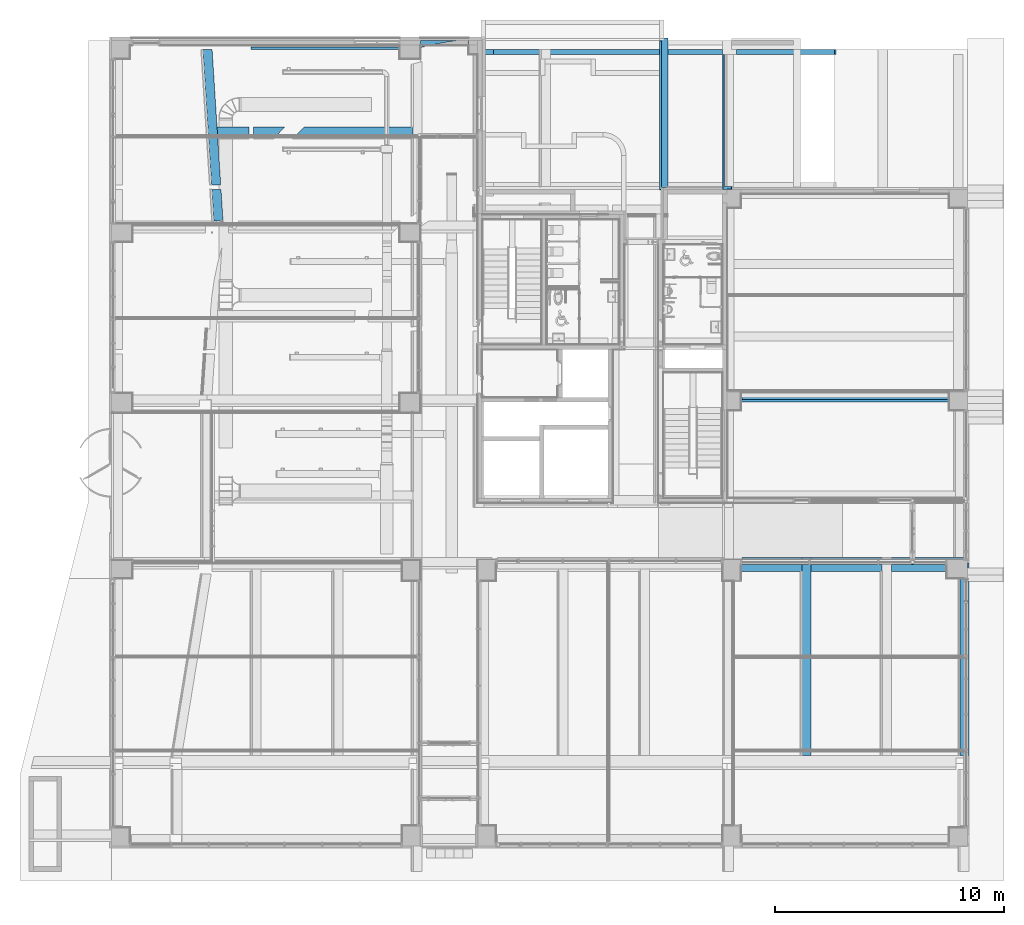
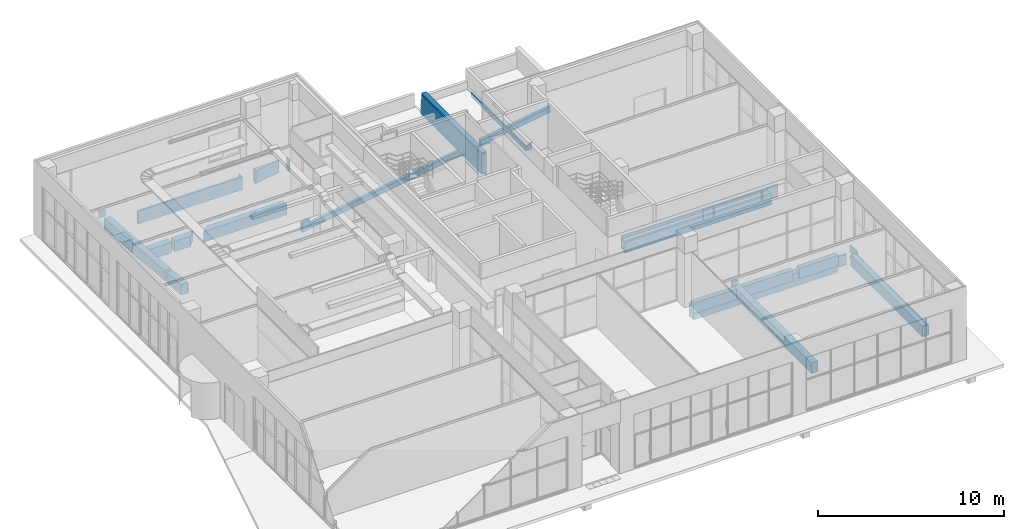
# One storey, part 60 of 100: 14 beams.
"""IFC2X3 building model written with IfcOpenShell, lengths in millimetres."""

import ifcopenshell
import ifcopenshell.guid

model = None  # the IFC model being written
_history = None  # IfcOwnerHistory: only IFC2X3 demands one
_inside = {}  # id of a spatial element -> (the spatial element, [elements in it])
_under = {}  # id of a project, library or spatial element -> (it, [spatial elements below it])
_declared = {}  # id of a project -> (the project, [libraries it declares])
_typed = {}  # id of a type object -> (the type object, [elements of that type])
_made_of = {}  # id of a material, layer set ... -> (it, [elements and type objects made of it])


def new_model(schema):
    """Start an empty IFC model of exactly this schema.

    Asked for "IFC4X3", IfcOpenShell would pick the latest addendum, in which some entities
    have other attributes; the version numbers below select the first issue.
    IFC2X3 requires an IfcOwnerHistory on every rooted entity: one is made here for all.
    """
    global model, _history
    if schema == "IFC4X3":
        model = ifcopenshell.file(schema_version=(4, 3, 0, 0))
    else:
        model = ifcopenshell.file(schema=schema)
    _inside.clear()
    _under.clear()
    _declared.clear()
    _typed.clear()
    _made_of.clear()
    _history = None
    if model.schema == "IFC2X3":
        org = make("IfcOrganization", Name="unknown")
        user = make(
            "IfcPersonAndOrganization",
            ThePerson=make("IfcPerson", FamilyName="unknown"),
            TheOrganization=org,
        )
        app = make(
            "IfcApplication",
            ApplicationDeveloper=org,
            Version="unknown",
            ApplicationFullName="unknown",
            ApplicationIdentifier="unknown",
        )
        _history = make(
            "IfcOwnerHistory",
            OwningUser=user,
            OwningApplication=app,
            ChangeAction="ADDED",
            CreationDate=0,
        )
    return model


def make(cls, **values):
    """One entity of the class cls with the attributes given. An attribute that is None is left unset."""
    return model.create_entity(
        cls, **{name: value for name, value in values.items() if value is not None}
    )


def entity(cls, *values):
    """Any entity or typed value of the class cls, its attributes in the order of the schema. None: left unset."""
    e = model.create_entity(cls)
    for i, value in enumerate(values):
        if value is not None:
            e[i] = value
    return e


def rooted(cls, **values):
    """An entity with a GlobalId (a new one), such as an element, a storey or a relation."""
    return make(cls, GlobalId=ifcopenshell.guid.new(), OwnerHistory=_history, **values)


def si_unit(unit_type, name, prefix=None):
    """IfcSIUnit, for example si_unit("LENGTHUNIT", "METRE", prefix="MILLI")."""
    return make("IfcSIUnit", UnitType=unit_type, Prefix=prefix, Name=name)


def converted_unit(unit_type, name, factor, base, dimensions=None, offset=None):
    """IfcConversionBasedUnit, such as the inch: factor (a typed value) times the base unit."""
    return make(
        "IfcConversionBasedUnit"
        if offset is None
        else "IfcConversionBasedUnitWithOffset",
        ConversionOffset=offset,
        Dimensions=None
        if dimensions is None
        else entity("IfcDimensionalExponents", *dimensions),
        UnitType=unit_type,
        Name=name,
        ConversionFactor=make(
            "IfcMeasureWithUnit", ValueComponent=factor, UnitComponent=base
        ),
    )


def derived_unit(unit_type, elements):
    """IfcDerivedUnit: a product of units, each with its exponent."""
    return make(
        "IfcDerivedUnit",
        Elements=[
            make("IfcDerivedUnitElement", Unit=unit, Exponent=power)
            for unit, power in elements
        ],
        UnitType=unit_type,
    )


def assignment(units):
    """IfcUnitAssignment: the units of a project."""
    return None if units is None else make("IfcUnitAssignment", Units=units)


def point(xyz):
    """IfcCartesianPoint."""
    return None if xyz is None else make("IfcCartesianPoint", Coordinates=xyz)


def direction(xyz):
    """IfcDirection."""
    return None if xyz is None else make("IfcDirection", DirectionRatios=xyz)


def frame(location, z_axis=None, x_axis=None):
    """IfcAxis2Placement3D, a coordinate frame: its origin and axes. An axis left out is left unset."""
    return make(
        "IfcAxis2Placement3D",
        Location=point(location),
        Axis=direction(z_axis),
        RefDirection=direction(x_axis),
    )


def origin():
    """The frame at (0, 0, 0) with its axes left unset."""
    return frame((0.0, 0.0, 0.0))


def place(relative_to, where):
    """IfcLocalPlacement: puts the frame where relative to a parent placement (None: the world)."""
    return make(
        "IfcLocalPlacement", PlacementRelTo=relative_to, RelativePlacement=where
    )


def context(
    kind, dimensions, precision=None, world=None, true_north=None, identifier=None
):
    """IfcGeometricRepresentationContext, for example the 3D "Model" context."""
    return make(
        "IfcGeometricRepresentationContext",
        ContextIdentifier=identifier,
        ContextType=kind,
        CoordinateSpaceDimension=dimensions,
        Precision=precision,
        WorldCoordinateSystem=world,
        TrueNorth=true_north,
    )


def subcontext(parent, identifier, kind, view, scale=None):
    """IfcGeometricRepresentationSubContext, for example "Body" below "Model"."""
    return make(
        "IfcGeometricRepresentationSubContext",
        ContextIdentifier=identifier,
        ContextType=kind,
        ParentContext=parent,
        TargetScale=scale,
        TargetView=view,
    )


def project(units=None, contexts=None):
    """IfcProject with its units and contexts."""
    return rooted(
        "IfcProject",
        Name="project",
        RepresentationContexts=contexts,
        UnitsInContext=assignment(units),
    )


def spatial(cls, under=None, at=None, **own):
    """A site, building, storey or space (cls), placed at a placement, below another one or the project."""
    s = rooted(cls, ObjectPlacement=at, **own)
    if under is not None:
        _under.setdefault(under.id(), (under, []))[1].append(s)
    return s


def faces_of(points, faces, orient=None, outer=None):
    """IfcFace entities. A face is a list of loops; a loop is a list of indices into points, from 0.

    orient and outer hold one flag for each loop. By default every Orientation is true, the
    first loop of a face is its IfcFaceOuterBound and the others are IfcFaceBound.
    """
    made = []
    for i, loops in enumerate(faces):
        bounds = []
        for j, loop in enumerate(loops):
            is_outer = j == 0 if outer is None else outer[i][j]
            bounds.append(
                make(
                    "IfcFaceOuterBound" if is_outer else "IfcFaceBound",
                    Bound=make("IfcPolyLoop", Polygon=[points[k] for k in loop]),
                    Orientation=True if orient is None else orient[i][j],
                )
            )
        made.append(make("IfcFace", Bounds=bounds))
    return made


def face_set(faces, orient=None, outer=None):
    """The faces of one IfcConnectedFaceSet. surface_model builds it on its shared points."""
    return ("IfcConnectedFaceSet", faces, orient, outer)


def faceted_brep(points, faces, orient=None, outer=None, voids=None):
    """IfcFacetedBrep: a solid bounded by flat faces; with voids (closed shells), ...WithVoids."""
    shared = [point(p) for p in points]
    hull = make("IfcClosedShell", CfsFaces=faces_of(shared, faces, orient, outer))
    if voids is None:
        return make("IfcFacetedBrep", Outer=hull)
    return make(
        "IfcFacetedBrepWithVoids",
        Outer=hull,
        Voids=[
            make(cls, CfsFaces=faces_of(shared, fs, o, b)) for cls, fs, o, b in voids
        ],
    )


def surface_model(cls, points, shells):
    """IfcFaceBasedSurfaceModel or IfcShellBasedSurfaceModel (cls): surfaces that need not close."""
    shared = [point(p) for p in points]
    made = [make(c, CfsFaces=faces_of(shared, fs, o, b)) for c, fs, o, b in shells]
    if cls == "IfcFaceBasedSurfaceModel":
        return make(cls, FbsmFaces=made)
    return make(cls, SbsmBoundary=made)


def shape(context_of_items, identifier, shape_type, items):
    """IfcShapeRepresentation: the items that make up one representation, for example the "Body"."""
    return make(
        "IfcShapeRepresentation",
        ContextOfItems=context_of_items,
        RepresentationIdentifier=identifier,
        RepresentationType=shape_type,
        Items=items,
    )


def source(mapping_origin, context_of_items, identifier, shape_type, items):
    """IfcRepresentationMap: a shape defined once, which mapped items show again and again."""
    return make(
        "IfcRepresentationMap",
        MappingOrigin=mapping_origin,
        MappedRepresentation=shape(context_of_items, identifier, shape_type, items),
    )


def transform(
    local_origin,
    x_axis=None,
    y_axis=None,
    z_axis=None,
    scale=None,
    scale2=None,
    scale3=None,
    uniform=True,
):
    """IfcCartesianTransformationOperator3D, or its non-uniform kind. x_axis, y_axis, z_axis: its Axis1, 2, 3."""
    if uniform:
        return make(
            "IfcCartesianTransformationOperator3D",
            Axis1=direction(x_axis),
            Axis2=direction(y_axis),
            LocalOrigin=point(local_origin),
            Scale=scale,
            Axis3=direction(z_axis),
        )
    return make(
        "IfcCartesianTransformationOperator3DnonUniform",
        Axis1=direction(x_axis),
        Axis2=direction(y_axis),
        LocalOrigin=point(local_origin),
        Scale=scale,
        Axis3=direction(z_axis),
        Scale2=scale2,
        Scale3=scale3,
    )


def mapped(mapping_source, mapping_target):
    """IfcMappedItem: shows the shape of a source again, moved by a transform."""
    return make(
        "IfcMappedItem", MappingSource=mapping_source, MappingTarget=mapping_target
    )


def material(Name=None, Category=None):
    """IfcMaterial."""
    return make("IfcMaterial", Name=Name, Category=Category)


def material_list(materials):
    """IfcMaterialList."""
    return make("IfcMaterialList", Materials=materials)


def made_of(thing, what):
    """Note that an element or type object is made of a material, layer set ...; save() writes the relation."""
    if what is not None:
        _made_of.setdefault(what.id(), (what, []))[1].append(thing)
    return thing


def type_object(cls, material=None, **own):
    """A type object (cls), such as IfcWallType, which elements share."""
    return made_of(rooted(cls, **own), material)


def type_shapes(of_type, sources):
    """Give a type object the sources (RepresentationMaps) that its elements show as mapped items."""
    of_type.RepresentationMaps = sources


def element(
    cls,
    number,
    at=None,
    inside=None,
    cuts=None,
    type_object=None,
    material=None,
    context=None,
    identifier="Body",
    shape_type=None,
    held_by="IfcProductDefinitionShape",
    body=None,
    shapes=None,
    **own,
):
    """One element of the class cls, such as IfcWall. Its Tag is "e" and its number.

    at: its placement. inside: the storey or other place that contains it. cuts: it is an
    opening in that element (IfcRelVoidsElement). A single representation is given by context,
    identifier, shape_type and body (its items); several are given by shapes. held_by: the class
    of the entity that holds the representations. save() writes the other relations.
    """
    e = rooted(cls, Tag="e%d" % number, ObjectPlacement=at, **own)
    if body is not None:
        shapes = [shape(context, identifier, shape_type, body)]
    if shapes is not None:
        e.Representation = make(held_by, Representations=shapes)
    if inside is not None:
        _inside.setdefault(inside.id(), (inside, []))[1].append(e)
    if cuts is not None:
        rooted(
            "IfcRelVoidsElement", RelatingBuildingElement=cuts, RelatedOpeningElement=e
        )
    if type_object is not None:
        _typed.setdefault(type_object.id(), (type_object, []))[1].append(e)
    return made_of(e, material)


def aggregate(whole, parts):
    """IfcRelAggregates: a whole, such as a stair, and the parts it consists of."""
    return rooted("IfcRelAggregates", RelatingObject=whole, RelatedObjects=parts)


def save(model, path):
    """Write the relations noted so far, then the file.

    IfcRelAggregates (storeys below a building ...), IfcRelContainedInSpatialStructure (elements
    in a storey), IfcRelDefinesByType, IfcRelAssociatesMaterial and IfcRelDeclares: one each for
    every whole, place, type object, material and project.
    """
    for whole, parts in _under.values():
        aggregate(whole, parts)
    for where, things in _inside.values():
        rooted(
            "IfcRelContainedInSpatialStructure",
            RelatedElements=things,
            RelatingStructure=where,
        )
    for kind, things in _typed.values():
        rooted("IfcRelDefinesByType", RelatedObjects=things, RelatingType=kind)
    for what, things in _made_of.values():
        rooted("IfcRelAssociatesMaterial", RelatedObjects=things, RelatingMaterial=what)
    for by, libraries in _declared.values():
        rooted("IfcRelDeclares", RelatingContext=by, RelatedDefinitions=libraries)
    model.write(path)


model = new_model("IFC2X3")

# Units and contexts
model_context = context("Model", 3, precision=0.01, world=origin(), true_north=direction((6.123031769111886e-17, 1.0)))
body_context = subcontext(model_context, "Body", "Model", "MODEL_VIEW")
ifc_project = project(units=[si_unit("LENGTHUNIT", "METRE", prefix="MILLI"), si_unit("AREAUNIT", "SQUARE_METRE"), si_unit("VOLUMEUNIT", "CUBIC_METRE"), converted_unit("PLANEANGLEUNIT", "DEGREE", entity("IfcRatioMeasure", 0.017453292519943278), si_unit("PLANEANGLEUNIT", "RADIAN"), dimensions=[0, 0, 0, 0, 0, 0, 0]), si_unit("MASSUNIT", "GRAM", prefix="KILO"), derived_unit("MASSDENSITYUNIT", [(si_unit("MASSUNIT", "GRAM", prefix="KILO"), 1), (si_unit("LENGTHUNIT", "METRE"), -3)]), derived_unit("MOMENTOFINERTIAUNIT", [(si_unit("LENGTHUNIT", "METRE"), 4)]), si_unit("TIMEUNIT", "SECOND"), si_unit("FREQUENCYUNIT", "HERTZ"), si_unit("THERMODYNAMICTEMPERATUREUNIT", "DEGREE_CELSIUS"), derived_unit("THERMALTRANSMITTANCEUNIT", [(si_unit("MASSUNIT", "GRAM", prefix="KILO"), 1), (si_unit("THERMODYNAMICTEMPERATUREUNIT", "KELVIN"), -1), (si_unit("TIMEUNIT", "SECOND"), -3)]), derived_unit("VOLUMETRICFLOWRATEUNIT", [(si_unit("LENGTHUNIT", "METRE"), 3), (si_unit("TIMEUNIT", "SECOND"), -1)]), derived_unit("MASSFLOWRATEUNIT", [(si_unit("MASSUNIT", "GRAM", prefix="KILO"), 1), (si_unit("TIMEUNIT", "SECOND"), -1)]), derived_unit("ROTATIONALFREQUENCYUNIT", [(si_unit("TIMEUNIT", "SECOND"), -1)]), si_unit("ELECTRICCURRENTUNIT", "AMPERE"), si_unit("ELECTRICVOLTAGEUNIT", "VOLT"), si_unit("POWERUNIT", "WATT"), si_unit("FORCEUNIT", "NEWTON", prefix="KILO"), si_unit("ILLUMINANCEUNIT", "LUX"), si_unit("LUMINOUSFLUXUNIT", "LUMEN"), si_unit("LUMINOUSINTENSITYUNIT", "CANDELA"), derived_unit("USERDEFINED", [(si_unit("MASSUNIT", "GRAM", prefix="KILO"), -1), (si_unit("LENGTHUNIT", "METRE"), -2), (si_unit("TIMEUNIT", "SECOND"), 3), (si_unit("LUMINOUSFLUXUNIT", "LUMEN"), 1)]), derived_unit("SOUNDPOWERUNIT", [(si_unit("MASSUNIT", "GRAM", prefix="KILO"), 1), (si_unit("LENGTHUNIT", "METRE"), 2), (si_unit("TIMEUNIT", "SECOND"), -3)]), derived_unit("SOUNDPRESSUREUNIT", [(si_unit("MASSUNIT", "GRAM", prefix="KILO"), 1), (si_unit("LENGTHUNIT", "METRE"), -1), (si_unit("TIMEUNIT", "SECOND"), -2)]), derived_unit("LINEARVELOCITYUNIT", [(si_unit("LENGTHUNIT", "METRE"), 1), (si_unit("TIMEUNIT", "SECOND"), -1)]), si_unit("PRESSUREUNIT", "PASCAL"), derived_unit("USERDEFINED", [(si_unit("LENGTHUNIT", "METRE"), -2), (si_unit("MASSUNIT", "GRAM", prefix="KILO"), 1), (si_unit("TIMEUNIT", "SECOND"), -2)]), derived_unit("LINEARFORCEUNIT", [(si_unit("MASSUNIT", "GRAM", prefix="KILO"), 1), (si_unit("LENGTHUNIT", "METRE"), 1), (si_unit("TIMEUNIT", "SECOND"), -2), (si_unit("LENGTHUNIT", "METRE"), -1)]), derived_unit("PLANARFORCEUNIT", [(si_unit("MASSUNIT", "GRAM", prefix="KILO"), 1), (si_unit("LENGTHUNIT", "METRE"), 1), (si_unit("TIMEUNIT", "SECOND"), -2), (si_unit("LENGTHUNIT", "METRE"), -2)])], contexts=[model_context])

# Site, building, storey
site_placement = place(None, frame((-14167.972527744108, -657.2125860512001, 0.0)))
site = spatial("IfcSite", under=ifc_project, at=site_placement, Name="Default", CompositionType="ELEMENT")
building_placement = place(site_placement, origin())
building = spatial("IfcBuilding", under=site, at=building_placement, Name="Sample Building", CompositionType="ELEMENT")
storey_placement = place(building_placement, origin())
storey = spatial("IfcBuildingStorey", under=building, at=storey_placement, Name="지상 1층", CompositionType="ELEMENT", Elevation=0.0)

# Beams
ifc_material = material(Name="KBIMS-콘크리트")
beam_type_1 = type_object("IfcBeamType", Name="BM111-철근콘크리트구조 보:BM110-철근 콘크리트구조 보_400 x 850_B1-1G1", PredefinedType="NOTDEFINED")
beam_1_placement = place(storey_placement, frame((41623.40894408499, 20071.077190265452, -500.0)))
element("IfcBeam", 1, at=beam_1_placement, inside=storey, type_object=beam_type_1, material=ifc_material, Name="BM111-철근콘크리트구조 보:BM110-철근 콘크리트구조 보_400 x 850_B1-1G1", ObjectType="BM111-철근콘크리트구조 보:BM110-철근 콘크리트구조 보_400 x 850_B1-1G1", context=body_context, shape_type="Brep", body=[
    faceted_brep([(0.0, 400.0, 0.0), (0.0, 400.0, -850.0), (0.0, 286.1351177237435, -850.0), (0.0, 286.1351177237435, -600.0), (0.0, 86.13511772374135, -600.0), (0.0, 86.13511772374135, -850.0), (0.0, 0.0, -850.0), (0.0, 0.0, -150.0), (0.0, 286.13519282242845, -150.0), (0.0, 286.13519282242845, 0.0), (9044.554921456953, 286.13519282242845, 0.0), (9044.554921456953, 323.61770097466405, 0.0), (9719.853471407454, 323.61770097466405, 0.0), (9719.853471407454, 400.0, 0.0), (9719.853471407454, 400.0, -850.0), (9719.853471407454, 323.61770097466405, -850.0), (9044.554921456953, 323.61770097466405, -850.0), (9044.572270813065, 286.13511772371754, -850.0), (9044.554921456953, 0.0, -850.0), (9044.554921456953, 0.0, -150.0), (9044.554921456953, 286.13519282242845, -150.0), (9044.554921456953, 86.13511772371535, -600.0), (9044.572270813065, 86.13511772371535, -850.0), (9044.572270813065, 286.13511772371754, -600.0), (9044.554921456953, 286.13511772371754, -850.0), (9044.572270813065, 86.13511772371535, -600.0), (9044.554921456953, 286.13511772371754, -600.0), (9044.554921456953, 86.13511772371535, -850.0)], [[[0, 1, 2, 3, 4, 5, 6, 7, 8, 9]], [[0, 9, 10, 11, 12, 13]], [[1, 0, 13, 14]], [[2, 1, 14, 15, 16, 17]], [[7, 6, 18, 19]], [[8, 7, 19, 20]], [[9, 8, 20, 10]], [[4, 21, 22, 5]], [[23, 3, 2, 24]], [[25, 4, 3, 26]], [[14, 13, 12, 15]], [[16, 11, 10, 20, 19, 18, 27, 21, 26, 24]], [[11, 16, 15, 12]], [[6, 5, 27, 18]]]),
])
beam_2_placement = place(storey_placement, frame((41567.97247138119, 19957.212692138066, -650.0)))
element("IfcBeam", 2, at=beam_2_placement, inside=storey, type_object=beam_type_1, material=ifc_material, Name="BM111-철근콘크리트구조 보:BM110-철근 콘크리트구조 보_400 x 850_B1-1G1", ObjectType="BM111-철근콘크리트구조 보:BM110-철근 콘크리트구조 보_400 x 850_B1-1G1", context=body_context, shape_type="Brep", body=[
    faceted_brep([(0.0, 400.0, 0.0), (55.43647270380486, 400.0, 0.0), (55.43647270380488, 400.0, -450.0), (0.0, 400.0, -450.0), (9099.991394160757, 0.0, -700.0), (0.0, 0.0, -700.0), (0.0, 199.99961585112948, -700.0), (55.43647270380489, 199.99961585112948, -700.0), (55.43647270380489, 113.86449812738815, -700.0), (9099.991394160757, 113.86449812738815, -700.0), (0.0, 0.0, 0.0), (9099.991394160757, 0.0, 0.0), (0.0, 199.99961585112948, -450.0), (9099.991394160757, 113.86449812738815, 0.0), (55.43647270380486, 113.86449812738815, 0.0), (55.43647270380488, 199.99961585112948, -450.0)], [[[0, 1, 2, 3]], [[4, 5, 6, 7, 8, 9]], [[10, 5, 4, 11]], [[5, 10, 0, 3, 12, 6]], [[11, 4, 9, 13]], [[10, 11, 13, 14, 1, 0]], [[14, 8, 7, 15, 2, 1]], [[8, 14, 13, 9]], [[12, 15, 7, 6]], [[15, 12, 3, 2]]]),
])
beam_type_2 = type_object("IfcBeamType", Name="BM111-철근콘크리트구조 보:BM110-철근 콘크리트구조 보_500 x 850_B1-1G5", PredefinedType="NOTDEFINED")
beam_3_placement = place(storey_placement, frame((41627.38708780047, 12671.077049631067, -1350.0), z_axis=(0.0, 0.0, 1.0), x_axis=(-1.0, 0.0, 0.0)))
element("IfcBeam", 3, at=beam_3_placement, inside=storey, type_object=beam_type_2, material=ifc_material, Name="BM111-철근콘크리트구조 보:BM110-철근 콘크리트구조 보_500 x 850_B1-1G5", ObjectType="BM111-철근콘크리트구조 보:BM110-철근 콘크리트구조 보_500 x 850_B1-1G5", context=body_context, shape_type="Brep", body=[
    faceted_brep([(0.0, 0.0, 850.0), (0.0, -186.13533345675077, 850.0), (0.0, -386.1355018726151, 850.0), (0.0, -500.0, 850.0), (0.0, -500.0, 0.0), (0.0, 0.0, 0.0), (0.0, 0.0, 500.0), (-2615.85881129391, 0.0, 850.0), (-3015.8588112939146, 0.0, 850.0), (-6115.858811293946, 0.0, 850.0), (-6515.858811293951, 0.0, 850.0), (-8940.568048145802, 0.0, 850.0), (-8940.568048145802, -186.13533345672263, 850.0), (-8940.568048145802, -386.1353334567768, 850.0), (-4384.04123988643, -386.1353334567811, 850.0), (-1966.3442060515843, -386.1353334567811, 850.0), (-1966.3442060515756, -500.0, 850.0), (-4384.041239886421, -500.0, 699.7104683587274), (-4384.04123988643, -500.0, 700.0), (-9240.575877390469, -500.0, 700.0), (-9315.875327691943, -500.0, 700.0), (-9715.875327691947, -500.0, 700.0), (-9715.875327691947, -500.0, 0.0), (-9315.875327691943, -500.0, 0.0), (-9240.575877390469, -500.0, 0.0), (-9715.875327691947, -386.13598930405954, 0.0), (-8940.568048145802, -386.13598930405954, 0.0), (-8940.568048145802, 0.0, 0.0), (-8940.568048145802, 0.0, 500.0), (-4384.04123988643, -386.1353334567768, 700.0), (-8940.568048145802, -386.1359893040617, 700.0), (-9715.875327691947, -386.1353334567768, 700.0), (-4384.041239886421, -386.1353334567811, 699.7104683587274), (-8940.568048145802, -386.1353334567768, 700.0), (-9715.875327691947, -386.13598930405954, 700.0)], [[[0, 1, 2, 3, 4, 5, 6]], [[3, 2, 1, 0, 7, 8, 9, 10, 11, 12, 13, 14, 15, 16]], [[4, 3, 16, 17, 18, 19, 20, 21, 22, 23, 24]], [[5, 4, 24, 23, 22, 25, 26, 27]], [[0, 6, 5, 27, 28, 11, 10, 9, 8, 7]], [[21, 20, 19, 18, 29, 30, 31]], [[32, 15, 14, 13, 33, 29]], [[15, 32, 17, 16]], [[17, 32, 29, 18]], [[22, 21, 34, 25]], [[33, 26, 25, 34]], [[26, 33, 13, 12, 11, 28, 27]]]),
])
ifc_material_list_1 = material_list([ifc_material, ifc_material])
beam_type_3 = type_object("IfcBeamType", Name="BM111-철근콘크리트구조 보:BM110-철근 콘크리트구조 보_400 x 850_B1-1G2", PredefinedType="BEAM", material=ifc_material_list_1)
beam_4_placement = place(storey_placement, frame((51143.24592987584, 4521.0771902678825, -850.0), z_axis=(0.0, 0.0, 1.0), x_axis=(0.0, -1.0, 0.0)))
element("IfcBeam", 4, at=beam_4_placement, inside=storey, type_object=beam_type_3, material=ifc_material, Name="BM111-철근콘크리트구조 보:BM110-철근 콘크리트구조 보_400 x 850_B1-1G2", ObjectType="BM111-철근콘크리트구조 보:BM110-철근 콘크리트구조 보_400 x 850_B1-1G2", context=body_context, shape_type="Brep", body=[
    faceted_brep([(-7596.135539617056, 324.7265554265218, 850.0), (-7596.135539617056, 400.0, 850.0), (-8399.999859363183, 400.0, 850.0), (-8399.999859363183, 324.717899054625, 850.0), (-7596.135539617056, 400.0, 650.0), (0.0, 400.0, 650.0), (0.0, 400.0, 0.0), (-8399.999859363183, 400.0, 0.0), (-8399.999859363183, 400.0, 150.0), (-8136.135539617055, 400.0, 150.0), (-8136.135539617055, 400.0, 350.0), (-8399.999859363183, 400.0, 350.0), (0.0, 0.0, 0.0), (-7736.135848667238, 0.0, 0.0), (-7736.1358486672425, 324.70920607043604, 0.0), (-8399.999859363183, 324.70920607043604, 0.0), (0.0, 0.0, 700.0), (-7736.135848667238, 0.0, 700.0), (0.0, 324.72655542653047, 650.0), (0.0, 324.72655542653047, 700.0), (-7596.135539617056, 324.7265554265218, 650.0), (-7596.135539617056, 324.7265554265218, 700.0), (-7596.135539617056, 324.717899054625, 850.0), (-7736.135848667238, 324.72504784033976, 700.0), (-7596.135539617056, 324.717899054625, 700.0), (-8399.999859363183, 324.70920607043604, 350.0), (-8136.135539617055, 324.70920607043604, 350.0), (-8136.135539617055, 324.70920607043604, 150.0), (-8399.999859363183, 324.70920607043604, 150.0), (-7736.1358486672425, 324.717899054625, 0.0), (-8136.135539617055, 324.71789905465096, 150.0), (-8399.999859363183, 324.71789905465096, 350.0), (-8136.135539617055, 324.71789905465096, 350.0), (-7736.135848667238, 324.717899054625, 700.0), (-8399.999859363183, 324.71789905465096, 150.0)], [[[0, 1, 2, 3]], [[4, 5, 6, 7, 8, 9, 10, 11, 2, 1]], [[6, 12, 13, 14, 15, 7]], [[12, 16, 17, 13]], [[12, 6, 5, 18, 19, 16]], [[20, 18, 5, 4]], [[18, 20, 21, 19]], [[20, 4, 1, 22, 21]], [[16, 19, 21, 23, 17]], [[24, 22, 3, 25, 26, 27, 28, 15, 29, 23]], [[30, 9, 8, 28]], [[10, 26, 31, 11]], [[9, 27, 32, 10]], [[14, 13, 17, 33]], [[8, 7, 15, 34]], [[3, 2, 11, 25]]]),
])
ifc_material_list_2 = material_list([ifc_material, ifc_material])
ifc_material_list_3 = material_list([ifc_material, ifc_material])
beam_type_4 = type_object("IfcBeamType", Name="BM111-철근콘크리트구조 보:BM110-철근 콘크리트구조 보_400 x 800_B1-1B2", PredefinedType="BEAM", material=ifc_material_list_3)
shared_shape_1 = source(origin(), body_context, "Body", "Brep", [
    faceted_brep([(400.0, 8649.999859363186, 850.0), (0.0, 8649.999859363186, 850.0), (0.0, 8536.13519281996, 850.0), (400.0, 8536.13519281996, 850.0), (400.0, 8649.999859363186, 435.0493231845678), (0.0, 8649.999859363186, 459.91423049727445), (0.0, 8536.135192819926, 459.9142304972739), (400.0, 8536.135192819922, 435.0493231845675)], [[[0, 1, 2, 3]], [[1, 0, 4, 5]], [[3, 2, 6, 7]], [[4, 7, 6, 5]], [[0, 3, 7, 4]], [[6, 2, 1, 5]]]),
    faceted_brep([(400.0, 8149.999859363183, 0.0), (400.0, 8149.999859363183, 350.0), (400.0, 8336.135192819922, 350.0), (400.0, 8336.135192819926, 700.0), (400.0, 8036.135361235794, 700.0), (400.0, 0.0, 700.0), (400.0, 0.0, 0.0), (400.0, 8036.135361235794, 0.0), (0.0, 0.0, 0.0), (0.0, 8036.135361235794, 0.0), (0.0, 8149.999859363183, 0.0), (0.0, 8149.999859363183, 350.0), (0.0, 0.0, 700.0), (0.0, 8036.135361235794, 700.0), (0.0, 8336.135192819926, 700.0), (0.0, 8336.135192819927, 350.0)], [[[0, 1, 2, 3, 4, 5, 6, 7]], [[6, 8, 9, 10, 0, 7]], [[11, 10, 9, 8, 12, 13, 14, 15]], [[8, 6, 5, 12]], [[1, 0, 10, 11]], [[1, 11, 15, 2]], [[12, 5, 4, 3, 14, 13]], [[3, 2, 15, 14]]]),
])
type_shapes(beam_type_4, [shared_shape_1])
beam_5_placement = place(storey_placement, frame((44243.24589909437, 4521.077190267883, -850.0)))
element("IfcBeam", 5, at=beam_5_placement, inside=storey, type_object=beam_type_4, material=ifc_material_list_2, Name="BM111-철근콘크리트구조 보:BM110-철근 콘크리트구조 보_400 x 800_B1-1B2", ObjectType="BM111-철근콘크리트구조 보:BM110-철근 콘크리트구조 보_400 x 800_B1-1B2", context=body_context, shape_type="MappedRepresentation", body=[
    mapped(shared_shape_1, transform((0.0, 0.0, 0.0), scale=1.0)),
])
ifc_material_list_4 = material_list([ifc_material, ifc_material, ifc_material])
ifc_material_list_5 = material_list([ifc_material, ifc_material, ifc_material])
beam_type_5 = type_object("IfcBeamType", Name="BM111-철근콘크리트구조 보:BM110-철근 콘크리트구조 보_400 x 800_B1-1B2", PredefinedType="BEAM", material=ifc_material_list_5)
shared_shape_2 = source(origin(), body_context, "Body", "Brep", [
    faceted_brep([(8488.419555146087, 401.5952722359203, 0.0), (3798.3438256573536, 401.5952722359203, 0.0), (3798.3438256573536, 401.5952722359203, 700.0), (8488.419555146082, 401.5952722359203, 700.0), (8563.719005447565, 401.5952722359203, 700.0), (8563.719005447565, 401.5952722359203, 0.0), (8488.419555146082, 1.5952722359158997, 0.0), (3392.6489564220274, 1.5952722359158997, 0.0), (3593.1418228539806, 203.98336281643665, 0.0), (8563.719005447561, 1.5952722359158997, 0.0), (8488.419555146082, 1.5952722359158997, 700.0), (3392.6489564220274, 1.5952722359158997, 700.0), (8563.719005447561, 1.5952722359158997, 700.0), (3593.1418228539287, 203.98336281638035, 700.0)], [[[0, 1, 2, 3, 4, 5]], [[6, 7, 8, 1, 0, 5, 9]], [[10, 11, 7, 6, 9, 12]], [[12, 9, 5, 4]], [[11, 13, 8, 7]], [[8, 13, 2, 1]], [[13, 11, 10, 12, 4, 3, 2]]]),
    faceted_brep([(0.0, 401.5952722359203, 0.0), (25.50000004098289, 1.5952722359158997, 0.0), (25.500000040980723, 1.5952722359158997, 700.0), (0.0, 401.5952722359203, 700.0), (1388.4455974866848, 1.5952722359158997, 700.0), (1388.4455974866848, 401.5952722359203, 700.0), (1388.4455974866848, 401.5952722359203, 0.0), (1388.4455974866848, 1.5952722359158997, 0.0)], [[[0, 1, 2, 3]], [[3, 2, 4, 5]], [[6, 5, 4, 7]], [[0, 3, 5, 6]], [[1, 0, 6, 7]], [[2, 1, 7, 4]]]),
    faceted_brep([(1588.445597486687, 401.5952722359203, 0.0), (1588.445597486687, 1.5952722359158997, 0.0), (1588.445597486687, 1.5952722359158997, 700.0), (1588.445597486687, 401.5952722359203, 700.0), (2575.46082809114, 1.5952722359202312, 700.0), (2757.9994276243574, 203.57485157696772, 700.0), (2944.8255601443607, 401.5952722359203, 700.0), (2757.999427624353, 203.5748515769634, 0.0), (2944.825560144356, 401.5952722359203, 0.0), (2575.46082809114, 1.5952722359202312, 0.0)], [[[0, 1, 2, 3]], [[4, 5, 6, 3, 2]], [[5, 7, 8, 6]], [[4, 9, 7, 5]], [[0, 3, 6, 8]], [[0, 8, 7, 9, 1]], [[1, 9, 4, 2]]]),
])
type_shapes(beam_type_5, [shared_shape_2])
beam_6_placement = place(storey_placement, frame((18679.526893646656, 31569.481830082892, -850.0)))
element("IfcBeam", 6, at=beam_6_placement, inside=storey, type_object=beam_type_5, material=ifc_material_list_4, Name="BM111-철근콘크리트구조 보:BM110-철근 콘크리트구조 보_400 x 800_B1-1B2", ObjectType="BM111-철근콘크리트구조 보:BM110-철근 콘크리트구조 보_400 x 800_B1-1B2", context=body_context, shape_type="MappedRepresentation", body=[
    mapped(shared_shape_2, transform((0.0, 0.0, 0.0), scale=1.0)),
])
beam_type_6 = type_object("IfcBeamType", Name="BM111-철근콘크리트구조 보:BM110-철근 콘크리트구조 보_400 x 850_B1-1WG1", PredefinedType="BEAM", material=ifc_material)
shared_shape_3 = source(origin(), body_context, "Body", "SurfaceModel", [
    surface_model("IfcFaceBasedSurfaceModel", [(400.81198834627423, 8088.322606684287, 850.0), (0.0, 8088.322606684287, 850.0), (0.8838806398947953, 8074.457812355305, 850.0), (401.6958689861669, 8074.457812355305, 850.0), (400.81198834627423, 8088.3226066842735, 400.0), (401.6958689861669, 8074.457812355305, 400.0), (0.0, 8088.322606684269, 400.0), (0.8838806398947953, 8074.457812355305, 400.0), (32.758880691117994, 7574.4578123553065, 0.0), (433.57086903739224, 7574.4578123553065, 0.0), (649.4369887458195, 4188.322606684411, 0.0), (674.9369887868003, 3788.3226066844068, 0.0), (682.1958505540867, 3674.4581085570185, 0.0), (809.6958696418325, 1674.4578123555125, 0.0), (408.88388129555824, 1674.457812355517, 0.0), (433.5708690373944, 7574.4578123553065, 700.0), (32.758880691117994, 7574.4578123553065, 700.0), (408.88388129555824, 1674.457812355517, 700.0), (809.6958696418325, 1674.457812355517, 700.0), (682.1958505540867, 3674.4581085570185, 700.0), (674.9369887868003, 3788.3226066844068, 700.0), (649.4369887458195, 4188.322606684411, 700.0), (510.0, 88.32261953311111, 0.0), (910.8119883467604, 88.32261953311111, 0.0), (910.8119883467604, 88.32261953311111, 700.0), (510.0, 88.32261953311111, 700.0), (822.4458696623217, 1474.4578123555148, 0.0), (421.63388131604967, 1474.457812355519, 0.0), (421.6338813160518, 1474.4578123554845, 700.0), (822.445869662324, 1474.4578123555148, 700.0), (915.5671846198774, 13.731305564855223, 700.0), (915.5671846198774, 13.731305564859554, 0.0), (913.1875395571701, 7.663161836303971, 700.0), (913.1875395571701, 7.663161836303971, -6.484983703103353e-06), (910.8121031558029, 1.5960903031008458, 700.0), (910.8121031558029, 1.5960903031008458, -6.484983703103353e-06)], [face_set([[[0, 1, 2, 3]], [[4, 0, 3, 5]], [[1, 6, 7, 2]], [[1, 0, 4, 6]], [[6, 4, 5, 7]], [[3, 2, 7, 5]]]), face_set([[[8, 9, 10, 11, 12, 13, 14]], [[15, 16, 17, 18, 19, 20, 21]], [[15, 9, 8, 16]], [[9, 15, 21, 20, 19, 18, 13, 12, 11, 10]], [[16, 8, 14, 17]], [[14, 13, 18, 17]]]), face_set([[[22, 23, 24, 25]], [[26, 27, 28, 29]], [[23, 26, 27, 22]], [[25, 24, 29, 28]], [[26, 29, 24, 30, 31, 23]], [[22, 27, 28, 25]], [[31, 30, 32, 33]], [[34, 35, 33, 32]], [[23, 35, 33, 31]], [[30, 24, 34, 32]], [[24, 34, 35, 23]]])]),
])
type_shapes(beam_type_6, [shared_shape_3])
beam_7_placement = place(storey_placement, frame((18030.089904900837, 27782.7544956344, -850.0)))
element("IfcBeam", 7, at=beam_7_placement, inside=storey, type_object=beam_type_6, material=ifc_material, Name="BM111-철근콘크리트구조 보:BM110-철근 콘크리트구조 보_400 x 850_B1-1WG1", ObjectType="BM111-철근콘크리트구조 보:BM110-철근 콘크리트구조 보_400 x 850_B1-1WG1", context=body_context, shape_type="MappedRepresentation", body=[
    mapped(shared_shape_3, transform((0.0, 0.0, 0.0), scale=1.0)),
])
beam_8_placement = place(storey_placement, frame((20167.97249113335, 35357.212604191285, -1300.0)))
element("IfcBeam", 8, at=beam_8_placement, inside=storey, type_object=beam_type_6, material=ifc_material, Name="BM111-철근콘크리트구조 보:BM110-철근 콘크리트구조 보_400 x 850_B1-1WG1", ObjectType="BM111-철근콘크리트구조 보:BM110-철근 콘크리트구조 보_400 x 850_B1-1WG1", context=body_context, shape_type="Brep", body=[
    faceted_brep([(6499.982650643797, 0.0, 850.0), (6499.982650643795, 400.0, 850.0), (6499.795098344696, 400.0, 850.0), (6499.795098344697, 113.86449812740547, 850.0), (0.0, 113.86449812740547, 850.0), (0.0, 0.0, 850.0), (6499.982650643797, 0.0, 0.0), (0.0, 0.0, 0.0), (6499.982650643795, 400.0, 0.0), (0.0, 113.86449812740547, 0.0), (6499.795098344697, 113.86449812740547, 0.0), (6499.795098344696, 400.0, 0.0)], [[[0, 1, 2, 3, 4, 5]], [[6, 0, 5, 7]], [[8, 6, 7, 9, 10, 11]], [[1, 8, 11, 2]], [[1, 0, 6, 8]], [[7, 5, 4, 9]], [[10, 3, 2, 11]], [[3, 10, 9, 4]]]),
])
beam_type_7 = type_object("IfcBeamType", Name="BM111-철근콘크리트구조 보:BM110-철근 콘크리트구조 보_300 x 1500_1B4(역보)", PredefinedType="NOTDEFINED")
beam_9_placement = place(storey_placement, frame((38093.25459207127, 29358.37711516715, -750.0), z_axis=(0.0, 0.0, 1.0), x_axis=(0.0, 1.0, 0.0)))
element("IfcBeam", 9, at=beam_9_placement, inside=storey, type_object=beam_type_7, material=ifc_material, Name="BM111-철근콘크리트구조 보:BM110-철근 콘크리트구조 보_300 x 1500_1B4(역보)", ObjectType="BM111-철근콘크리트구조 보:BM110-철근 콘크리트구조 보_300 x 1500_1B4(역보)", context=body_context, shape_type="Brep", body=[
    faceted_brep([(6510.4000000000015, 0.0, 1500.0), (6510.4000000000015, -300.0, 1500.0), (6510.4000000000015, -300.0, 0.0), (6510.4000000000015, -124.71789905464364, 0.0), (6510.4000000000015, -124.71789905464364, 1100.0), (6510.4000000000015, 0.0, 1100.0), (0.0, -300.0, 1500.0), (0.0, -224.70054969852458, 1500.0), (0.0, 0.0, 1500.0), (0.0, 0.0, 200.0), (0.0, -224.71789905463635, 200.0), (0.0, -224.71789905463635, 0.0), (0.0, -300.0, 0.0), (0.0, -300.0, 200.0), (0.0, -300.0, 750.0), (0.0, -224.71789905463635, 750.0), (0.0, -224.71789905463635, 950.0), (0.0, -300.0, 950.0), (6396.535501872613, 0.0, 1500.0), (6398.835192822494, -300.0, 950.0), (6398.835192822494, -300.0, 750.0), (6498.835192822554, -300.0, 750.0), (6498.835192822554, -300.0, 0.0), (6498.835192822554, -124.7178990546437, 0.0), (6396.535192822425, 0.0, 1100.0), (6396.535192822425, 0.0, 200.0), (5998.835192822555, 0.0, 200.0), (6396.535192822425, -124.71789905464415, 200.0), (5998.835192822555, -124.71789905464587, 200.0), (5998.835192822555, -224.7178990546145, 200.0), (5998.835192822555, -224.7178990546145, 0.0), (5998.835192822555, -300.0, 750.0), (5998.835192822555, -224.71789905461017, 750.0), (6398.835192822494, -224.7178990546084, 950.0), (6398.835192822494, -224.7178990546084, 750.0), (6396.535192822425, -124.71789905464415, 1100.0), (6498.835192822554, -124.7178990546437, 200.0), (6498.835192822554, -124.7178990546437, 750.0), (6396.535192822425, -124.71789905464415, 750.0), (5998.835192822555, -124.71789905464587, 750.0), (5998.835192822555, -300.0, 0.0), (12.700000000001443, -300.0, 0.0)], [[[0, 1, 2, 3, 4, 5]], [[6, 7, 8, 9, 10, 11, 12, 13, 14, 15, 16, 17]], [[1, 0, 18, 8, 7, 6]], [[2, 1, 6, 17, 19, 20, 21, 22]], [[3, 2, 22, 23]], [[8, 18, 0, 5, 24, 25, 26, 9]], [[10, 9, 26, 25, 27, 28, 29]], [[11, 10, 29, 30]], [[15, 14, 31, 32]], [[33, 19, 17, 16]], [[34, 33, 16, 15, 32]], [[33, 34, 20, 19]], [[35, 4, 3, 23, 36, 37, 38]], [[24, 35, 38, 27, 25]], [[4, 35, 24, 5]], [[28, 39, 32, 31, 40, 30, 29]], [[21, 37, 36, 23, 22]], [[32, 39, 38, 37, 21, 20, 34]], [[39, 28, 27, 38]], [[14, 13, 12, 41, 40, 31]], [[12, 11, 30, 40, 41]]]),
])
beam_10_placement = place(storey_placement, frame((38017.95514176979, 29244.512617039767, -550.0), z_axis=(0.0, 0.0, 1.0), x_axis=(0.0, 1.0, 0.0)))
element("IfcBeam", 10, at=beam_10_placement, inside=storey, type_object=beam_type_7, material=ifc_material, Name="BM111-철근콘크리트구조 보:BM110-철근 콘크리트구조 보_300 x 1500_1B4(역보)", ObjectType="BM111-철근콘크리트구조 보:BM110-철근 콘크리트구조 보_300 x 1500_1B4(역보)", context=body_context, shape_type="Brep", body=[
    faceted_brep([(6510.399999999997, 0.0, 0.0), (6510.399999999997, 0.0, 1300.0), (6510.4000000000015, -75.29945030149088, 1300.0), (6510.4000000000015, -75.29945030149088, 0.0), (0.0, 0.0, 1300.0), (0.0, 0.0, 0.0), (0.0, -150.01734935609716, 0.0), (0.0, -150.01734935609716, 1300.0), (12.699690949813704, -150.0173493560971, 1300.0), (12.699690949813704, -300.0, 1300.0), (113.86449812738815, -300.0, 1300.0), (113.86449812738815, -75.29945030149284, 1300.0), (113.86449812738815, -300.0, 0.0), (12.699690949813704, -300.0, 0.0), (113.86449812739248, -75.29945030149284, 0.0), (12.699690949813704, -150.0173493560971, 0.0)], [[[0, 1, 2, 3]], [[4, 5, 6, 7]], [[1, 4, 7, 8, 9, 10, 11, 2]], [[12, 10, 9, 13]], [[4, 1, 0, 5]], [[5, 0, 3, 14, 12, 13, 15, 6]], [[14, 11, 10, 12]], [[11, 14, 3, 2]], [[15, 8, 7, 6]], [[8, 15, 13, 9]]]),
])
beam_type_8 = type_object("IfcBeamType", Name="BM111-철근콘크리트구조 보:BM110-철근 콘크리트구조 보_400 x 500_1G7(역보)", PredefinedType="NOTDEFINED")
beam_11_placement = place(storey_placement, frame((40767.94644879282, 29256.92409921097, 0.0), z_axis=(0.0, 0.0, 1.0), x_axis=(0.0, 1.0, 0.0)))
element("IfcBeam", 11, at=beam_11_placement, inside=storey, type_object=beam_type_8, material=ifc_material, Name="BM111-철근콘크리트구조 보:BM110-철근 콘크리트구조 보_400 x 500_1G7(역보)", ObjectType="BM111-철근콘크리트구조 보:BM110-철근 콘크리트구조 보_400 x 500_1G7(역보)", context=body_context, shape_type="Brep", body=[
    faceted_brep([(0.0, -400.0, 0.0), (0.0, -400.0, 500.0), (0.0, -200.01734935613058, 500.0), (0.0, -200.01734935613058, 0.0), (0.28819592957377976, -400.0, 500.0), (0.2881959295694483, -200.01734935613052, 500.0), (113.86449812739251, -400.0, 0.0), (113.86449812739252, -400.0, 300.0), (0.28819592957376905, -400.0, 300.0), (5900.288517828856, 0.0, 0.0), (5900.288517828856, -75.29945030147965, 0.0), (113.86449812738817, -75.29945030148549, 0.0), (0.28820877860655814, -200.01734935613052, 0.0), (0.28820877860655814, 0.0, 0.0), (5900.288517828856, 0.0, 300.0), (0.28819592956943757, 0.0, 300.0), (5900.288517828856, -75.29945030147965, 300.0), (0.28820877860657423, 0.0, 300.0), (0.28819592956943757, -200.01734935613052, 300.0), (113.86449812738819, -75.29945030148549, 300.0), (0.28820877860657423, -200.01734935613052, 300.0)], [[[0, 1, 2, 3]], [[1, 4, 5, 2]], [[1, 0, 6, 7, 8, 4]], [[9, 10, 11, 6, 0, 3, 12, 13]], [[14, 9, 13, 15]], [[9, 14, 16, 10]], [[14, 17, 18, 8, 7, 19, 16]], [[4, 8, 18, 5]], [[11, 19, 7, 6]], [[19, 11, 10, 16]], [[12, 20, 17, 13]], [[20, 12, 3, 2, 5]]]),
])
ifc_material_list_6 = material_list([ifc_material, ifc_material, ifc_material])
ifc_material_list_7 = material_list([ifc_material, ifc_material, ifc_material])
beam_type_9 = type_object("IfcBeamType", Name="BM111-철근콘크리트구조 보:BM110-철근 콘크리트구조 보_500 x 850_B1-1G5", PredefinedType="BEAM", material=ifc_material_list_7)
shared_shape_4 = source(origin(), body_context, "Body", "Brep", [
    faceted_brep([(59.43195185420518, 500.0, 0.0), (5.831005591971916e-06, 500.0, 0.0), (5.831005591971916e-06, 500.0, 350.0), (59.43195185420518, 500.0, 350.0), (5.831005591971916e-06, 0.0, 0.0), (59.43195185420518, 113.86449812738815, 0.0), (2675.2907631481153, 113.86449812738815, 0.0), (2675.2907631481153, 0.0, 0.0), (2599.9913128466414, 0.0, 0.0), (5.831005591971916e-06, 0.0, 700.0), (2675.2907631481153, 0.0, 700.0), (2599.9913128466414, 0.0, 700.0), (5.831005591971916e-06, 299.9998315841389, 700.0), (5.831005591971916e-06, 299.9998315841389, 350.0), (2675.2907631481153, 113.86449812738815, 350.0), (2675.2907631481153, 299.9998315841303, 350.0), (2675.2907631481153, 299.99983158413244, 700.0), (59.43195185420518, 113.86449812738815, 350.0), (59.43195185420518, 299.9998315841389, 350.0), (0.0, 299.9998315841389, 350.0)], [[[0, 1, 2, 3]], [[4, 1, 0, 5, 6, 7, 8]], [[9, 4, 8, 7, 10, 11]], [[1, 4, 9, 12, 13, 2]], [[10, 7, 6, 14, 15, 16]], [[9, 11, 10, 16, 12]], [[17, 5, 0, 3, 18]], [[5, 17, 14, 6]], [[18, 13, 12, 16, 15]], [[19, 18, 3, 2]], [[14, 17, 18, 15]]]),
    faceted_brep([(9000.0, 0.0, 700.0), (9000.0, 0.0, 0.0), (9000.0, 113.86449812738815, 0.0), (9000.0, 113.86449812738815, 350.0), (9000.0, 299.9998315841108, 350.0), (9000.0, 299.9998315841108, 700.0), (6575.290763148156, 0.0, 700.0), (6575.290763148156, 299.9998315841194, 700.0), (6575.290763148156, 0.0, 0.0), (6575.290763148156, 299.9998315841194, 350.0), (6575.290763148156, 113.86449812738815, 350.0), (6575.290763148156, 113.86449812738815, 0.0)], [[[0, 1, 2, 3, 4, 5]], [[6, 0, 5, 7]], [[8, 6, 7, 9, 10, 11]], [[1, 8, 11, 2]], [[1, 0, 6, 8]], [[3, 2, 11, 10]], [[3, 10, 9, 4]], [[5, 4, 9, 7]]]),
    faceted_brep([(3075.29076314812, 0.0, 0.0), (3075.29076314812, 0.0, 700.0), (3075.29076314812, 299.9998315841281, 700.0), (3075.29076314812, 299.9998315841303, 350.0), (3075.29076314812, 113.86449812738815, 350.0), (3075.29076314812, 113.86449812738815, 0.0), (6175.290763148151, 0.0, 0.0), (6099.991312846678, 0.0, 0.0), (6175.290763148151, 113.86449812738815, 0.0), (6175.290763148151, 0.0, 700.0), (6099.991312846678, 0.0, 700.0), (6175.290763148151, 113.86449812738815, 350.0), (6175.290763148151, 299.9998315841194, 350.0), (6175.290763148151, 299.9998315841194, 700.0)], [[[0, 1, 2, 3, 4, 5]], [[6, 7, 0, 5, 8]], [[1, 0, 7, 6, 9, 10]], [[9, 6, 8, 11, 12, 13]], [[1, 10, 9, 13, 2]], [[5, 4, 11, 8]], [[11, 4, 3, 12]], [[3, 2, 13, 12]]]),
])
type_shapes(beam_type_9, [shared_shape_4])
beam_12_placement = place(storey_placement, frame((41567.955135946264, 12557.212551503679, -850.0)))
element("IfcBeam", 12, at=beam_12_placement, inside=storey, type_object=beam_type_9, material=ifc_material_list_6, Name="BM111-철근콘크리트구조 보:BM110-철근 콘크리트구조 보_500 x 850_B1-1G5", ObjectType="BM111-철근콘크리트구조 보:BM110-철근 콘크리트구조 보_500 x 850_B1-1G5", context=body_context, shape_type="MappedRepresentation", body=[
    mapped(shared_shape_4, transform((0.0, 0.0, 0.0), scale=1.0)),
])
ifc_material_list_8 = material_list([ifc_material, ifc_material])
ifc_material_list_9 = material_list([ifc_material, ifc_material])
beam_type_10 = type_object("IfcBeamType", Name="BM111-철근콘크리트구조 보:BM110-철근 콘크리트구조 보_400 x 850_B1-1WG1", PredefinedType="BEAM", material=ifc_material_list_9)
shared_shape_5 = source(origin(), body_context, "Body", "Brep", [
    faceted_brep([(1.5952722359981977, 313.6150965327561, 0.0), (1.5952722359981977, 3.978224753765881, 0.0), (1.5952722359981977, 3.978224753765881, 850.0), (1.5952722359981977, 313.6150965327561, 850.0), (319.9681695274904, 82.48526431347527, 850.0), (640.2617996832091, 152.74654434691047, 850.0), (962.2626376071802, 214.71522487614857, 850.0), (1285.7560200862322, 268.3499942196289, 850.0), (1610.5262888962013, 313.61509653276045, 850.0), (319.9681695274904, 82.48526431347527, 0.0), (1610.5262888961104, 313.61509653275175, 0.0), (1285.7560200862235, 268.3499942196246, 0.0), (962.2626376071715, 214.71522487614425, 0.0), (640.2617996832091, 152.74654434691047, 0.0)], [[[0, 1, 2, 3]], [[4, 5, 6, 7, 8, 3, 2]], [[9, 1, 0, 10, 11, 12, 13]], [[8, 10, 0, 3]], [[6, 12, 11, 7]], [[7, 11, 10, 8]], [[6, 5, 13, 12]], [[9, 13, 5, 4]], [[1, 9, 4, 2]]]),
    faceted_brep([(2101.095235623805, 313.61509653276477, 0.0), (2101.095235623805, 313.61509653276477, 850.0), (2101.095235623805, 0.0, 850.0), (2101.095235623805, 0.0, 0.0), (2073.0166120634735, 313.61509653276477, 850.0), (2073.016612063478, 313.61509653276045, 0.0)], [[[0, 1, 2, 3]], [[2, 4, 5, 3]], [[2, 1, 4]], [[0, 3, 5]], [[1, 0, 5, 4]]]),
])
type_shapes(beam_type_10, [shared_shape_5])
beam_13_placement = place(storey_placement, frame((27566.851176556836, 35443.59750765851, -1300.0)))
element("IfcBeam", 13, at=beam_13_placement, inside=storey, type_object=beam_type_10, material=ifc_material_list_8, Name="BM111-철근콘크리트구조 보:BM110-철근 콘크리트구조 보_400 x 850_B1-1WG1", ObjectType="BM111-철근콘크리트구조 보:BM110-철근 콘크리트구조 보_400 x 850_B1-1WG1", context=body_context, shape_type="MappedRepresentation", body=[
    mapped(shared_shape_5, transform((0.0, 0.0, 0.0), scale=1.0)),
])
ifc_material_list_10 = material_list([ifc_material, ifc_material])
ifc_material_list_11 = material_list([ifc_material, ifc_material])
beam_type_11 = type_object("IfcBeamType", Name="BM111-철근콘크리트구조 보:BM110-철근 콘크리트구조 보_600 x 600_RAWG1", PredefinedType="BEAM", material=ifc_material_list_11)
shared_shape_6 = source(origin(), body_context, "Body", "Brep", [
    faceted_brep([(15399.605456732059, 0.0, 2889.3481537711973), (15460.03471284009, 0.0, 2518.3801778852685), (15460.03471284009, 199.99969094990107, 2518.380177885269), (15399.605456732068, 199.99969094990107, 2889.3481537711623), (11100.00003661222, 0.0, 1808.1473027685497), (15399.605456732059, 0.0, 2859.0395817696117), (11100.00003661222, 0.0, 2156.3855343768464), (11100.00003661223, 199.99969094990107, 1808.1473027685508), (11100.00003661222, 199.99969094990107, 2156.385534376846), (15399.605456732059, 199.99969094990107, 2859.0395817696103)], [[[0, 1, 2, 3]], [[4, 1, 0, 5, 6]], [[1, 4, 7, 2]], [[4, 6, 8, 7]], [[5, 0, 3, 9]], [[6, 5, 9, 8]], [[3, 2, 7, 8, 9]]]),
    faceted_brep([(0.0, 0.0, 0.0), (0.0, 0.0, 607.90842762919), (0.0, 199.99969094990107, 607.90842762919), (0.0, 199.99969094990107, 0.0), (10500.000036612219, 0.0, 2058.3317858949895), (10500.000036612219, 0.0, 1710.4096110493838), (10500.000036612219, 199.99969094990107, 1710.4096110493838), (10500.000036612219, 199.99969094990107, 2058.331785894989), (499.6141497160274, 0.0, 689.2936505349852), (499.61414971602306, 199.99969094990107, 689.2936505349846), (499.61414971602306, 0.0, 424.0395817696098), (499.6141497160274, 199.99969094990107, 424.03958176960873)], [[[0, 1, 2, 3]], [[4, 5, 6, 7]], [[1, 8, 9, 2]], [[1, 0, 5, 4, 10, 8]], [[5, 0, 3, 6]], [[10, 4, 7, 11]], [[8, 10, 11, 9]], [[3, 2, 9, 11, 7, 6]]]),
])
type_shapes(beam_type_11, [shared_shape_6])
beam_14_placement = place(storey_placement, frame((30267.946412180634, 35157.212617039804, -5259.039581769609)))
element("IfcBeam", 14, at=beam_14_placement, inside=storey, type_object=beam_type_11, material=ifc_material_list_10, Name="BM111-철근콘크리트구조 보:BM110-철근 콘크리트구조 보_600 x 600_RAWG1", ObjectType="BM111-철근콘크리트구조 보:BM110-철근 콘크리트구조 보_600 x 600_RAWG1", context=body_context, shape_type="MappedRepresentation", body=[
    mapped(shared_shape_6, transform((0.0, 0.0, 0.0), scale=1.0)),
])

save(model, "model.ifc")
